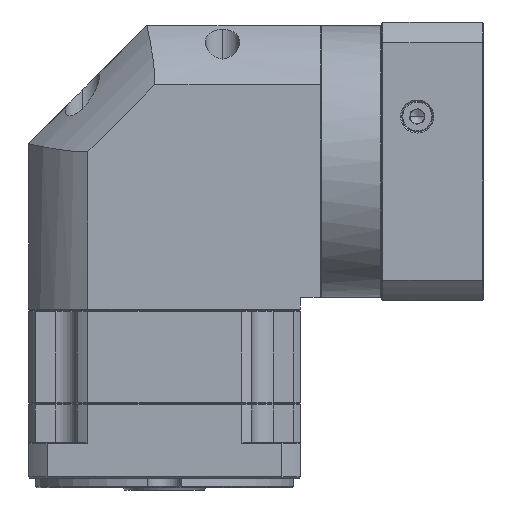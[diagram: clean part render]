
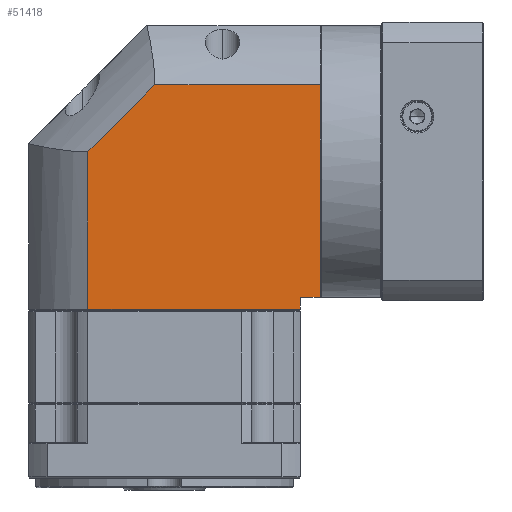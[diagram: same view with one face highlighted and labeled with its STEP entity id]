
A CAD part, front view. The second image highlights one B-rep face of the part: STEP entity #51418.
In plain terms, the highlighted planar face has unit normal (0, -1, 0).
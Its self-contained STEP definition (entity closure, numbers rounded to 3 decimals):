
#2335 = LINE ( 'NONE', #22564, #104260 ) ;
#4850 = LINE ( 'NONE', #111858, #71727 ) ;
#13818 = DIRECTION ( 'NONE',  ( 0.707, 0., 0.707 ) ) ;
#14002 = DIRECTION ( 'NONE',  ( 0., 1., 0. ) ) ;
#14428 = CARTESIAN_POINT ( 'NONE',  ( -13.277, 17.224, -42.779 ) ) ;
#14620 = VECTOR ( 'NONE', #70602, 1000. ) ;
#22564 = CARTESIAN_POINT ( 'NONE',  ( -13.277, 17.224, -36.279 ) ) ;
#24391 = ORIENTED_EDGE ( 'NONE', *, *, #78779, .F. ) ;
#24616 = CARTESIAN_POINT ( 'NONE',  ( 11.823, 17.224, -36.279 ) ) ;
#25973 = CARTESIAN_POINT ( 'NONE',  ( 40.161, 17.224, 58.621 ) ) ;
#29110 = VECTOR ( 'NONE', #56327, 1000. ) ;
#31868 = DIRECTION ( 'NONE',  ( -1., 0., 0. ) ) ;
#32234 = LINE ( 'NONE', #106672, #29110 ) ;
#35665 = VERTEX_POINT ( 'NONE', #117780 ) ;
#38285 = EDGE_CURVE ( 'NONE', #35665, #40451, #2335, .T. ) ;
#40451 = VERTEX_POINT ( 'NONE', #24616 ) ;
#42170 = LINE ( 'NONE', #46227, #62908 ) ;
#44551 = ORIENTED_EDGE ( 'NONE', *, *, #44956, .F. ) ;
#44956 = EDGE_CURVE ( 'NONE', #67544, #87923, #42170, .T. ) ;
#46227 = CARTESIAN_POINT ( 'NONE',  ( 110.123, 17.224, -42.779 ) ) ;
#51418 = ADVANCED_FACE ( 'NONE', ( #110591 ), #115474, .F. ) ;
#52974 = LINE ( 'NONE', #63874, #118345 ) ;
#53538 = CARTESIAN_POINT ( 'NONE',  ( 101.723, 17.224, -31.279 ) ) ;
#54414 = DIRECTION ( 'NONE',  ( 1., 0., 0. ) ) ;
#56327 = DIRECTION ( 'NONE',  ( -1., 0., 0. ) ) ;
#60532 = ORIENTED_EDGE ( 'NONE', *, *, #68846, .F. ) ;
#60789 = CARTESIAN_POINT ( 'NONE',  ( 11.823, 17.224, -42.779 ) ) ;
#62908 = VECTOR ( 'NONE', #87231, 1000. ) ;
#63874 = CARTESIAN_POINT ( 'NONE',  ( -13.277, 17.224, 58.621 ) ) ;
#65305 = ORIENTED_EDGE ( 'NONE', *, *, #38285, .F. ) ;
#66141 = CARTESIAN_POINT ( 'NONE',  ( 11.823, 17.224, 30.283 ) ) ;
#67544 = VERTEX_POINT ( 'NONE', #104925 ) ;
#68846 = EDGE_CURVE ( 'NONE', #40451, #75724, #79872, .T. ) ;
#69313 = AXIS2_PLACEMENT_3D ( 'NONE', #14428, #14002, #54414 ) ;
#70602 = DIRECTION ( 'NONE',  ( 0., 0., 1. ) ) ;
#70905 = CARTESIAN_POINT ( 'NONE',  ( 110.123, 17.224, -31.279 ) ) ;
#71727 = VECTOR ( 'NONE', #120791, 1000. ) ;
#75724 = VERTEX_POINT ( 'NONE', #66141 ) ;
#78779 = EDGE_CURVE ( 'NONE', #83350, #35665, #4850, .T. ) ;
#79872 = LINE ( 'NONE', #60789, #14620 ) ;
#83350 = VERTEX_POINT ( 'NONE', #53538 ) ;
#84682 = EDGE_CURVE ( 'NONE', #87923, #83350, #32234, .T. ) ;
#87231 = DIRECTION ( 'NONE',  ( 0., 0., -1. ) ) ;
#87923 = VERTEX_POINT ( 'NONE', #70905 ) ;
#92251 = ORIENTED_EDGE ( 'NONE', *, *, #99966, .F. ) ;
#98901 = ORIENTED_EDGE ( 'NONE', *, *, #102225, .F. ) ;
#99966 = EDGE_CURVE ( 'NONE', #129225, #67544, #52974, .T. ) ;
#102225 = EDGE_CURVE ( 'NONE', #75724, #129225, #119020, .T. ) ;
#104260 = VECTOR ( 'NONE', #31868, 1000. ) ;
#104925 = CARTESIAN_POINT ( 'NONE',  ( 110.123, 17.224, 58.621 ) ) ;
#106672 = CARTESIAN_POINT ( 'NONE',  ( -13.277, 17.224, -31.279 ) ) ;
#110591 = FACE_OUTER_BOUND ( 'NONE', #122403, .T. ) ;
#111858 = CARTESIAN_POINT ( 'NONE',  ( 101.723, 17.224, -42.779 ) ) ;
#115474 = PLANE ( 'NONE',  #69313 ) ;
#117780 = CARTESIAN_POINT ( 'NONE',  ( 101.723, 17.224, -36.279 ) ) ;
#118345 = VECTOR ( 'NONE', #125741, 1000. ) ;
#119020 = LINE ( 'NONE', #125938, #130203 ) ;
#120791 = DIRECTION ( 'NONE',  ( 0., 0., -1. ) ) ;
#122403 = EDGE_LOOP ( 'NONE', ( #24391, #124028, #44551, #92251, #98901, #60532, #65305 ) ) ;
#124028 = ORIENTED_EDGE ( 'NONE', *, *, #84682, .F. ) ;
#125741 = DIRECTION ( 'NONE',  ( 1., 0., 0. ) ) ;
#125938 = CARTESIAN_POINT ( 'NONE',  ( 11.823, 17.224, 30.283 ) ) ;
#129225 = VERTEX_POINT ( 'NONE', #25973 ) ;
#130203 = VECTOR ( 'NONE', #13818, 1000. ) ;
